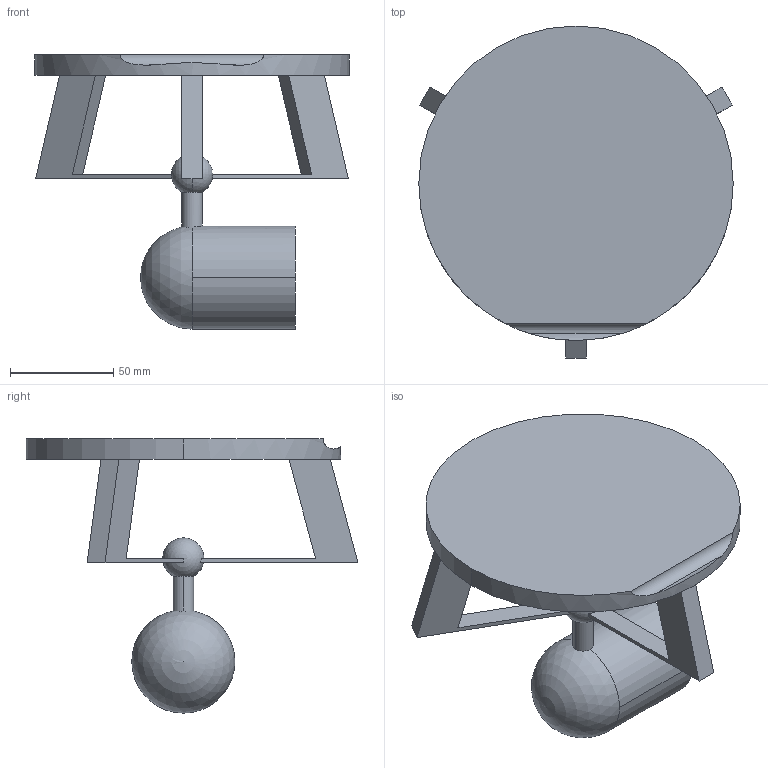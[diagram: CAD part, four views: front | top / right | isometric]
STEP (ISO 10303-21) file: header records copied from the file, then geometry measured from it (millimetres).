
FILE_DESCRIPTION (( 'STEP AP203' ), '1' );
FILE_NAME ('trepied_Défaut_sldprt.STEP', '2018-04-06T14:29:03', ( '' ), ( '' ), 'SwSTEP 2.0', 'SolidWorks 2013', '' );
FILE_SCHEMA (( 'CONFIG_CONTROL_DESIGN' ));
Length unit declared in the file: millimetre
Products named in the file (1): trepied_Défaut_sldprt
Bounding box: 152.5 x 160.9 x 133 mm (x, y, z)
Volume: 350694.3 mm3; surface area: 69524 mm2
Topology: 1 solids, 1 shells, 32 faces, 96 edges, 62 vertices
Faces by surface type: plane 21, cylinder 8, sphere 3
Entity records: 1211 total; most frequent: CARTESIAN_POINT 283, DIRECTION 182, ORIENTED_EDGE 176, EDGE_CURVE 88, AXIS2_PLACEMENT_3D 66, VERTEX_POINT 59, LINE 50, VECTOR 50
